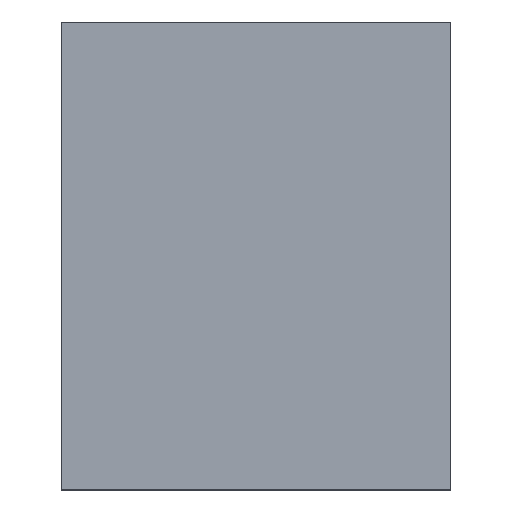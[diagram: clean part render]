
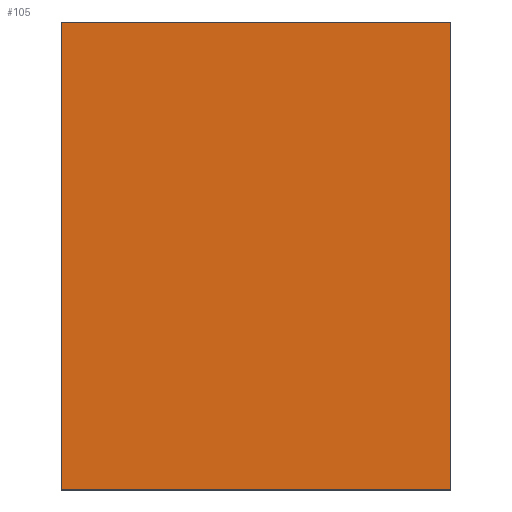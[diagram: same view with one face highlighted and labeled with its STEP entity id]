
A CAD part, top view. The second image highlights one B-rep face of the part: STEP entity #105.
In plain terms, the highlighted planar face has unit normal (0, 0, 1).
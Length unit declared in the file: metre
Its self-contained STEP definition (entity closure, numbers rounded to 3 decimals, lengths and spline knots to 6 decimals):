
#16=ORIENTED_EDGE('',*,*,#40,.T.);
#17=ORIENTED_EDGE('',*,*,#41,.T.);
#18=ORIENTED_EDGE('',*,*,#42,.T.);
#19=ORIENTED_EDGE('',*,*,#43,.T.);
#40=EDGE_CURVE('',#52,#53,#60,.T.);
#41=EDGE_CURVE('',#53,#54,#61,.T.);
#42=EDGE_CURVE('',#54,#55,#62,.T.);
#43=EDGE_CURVE('',#55,#52,#63,.T.);
#52=VERTEX_POINT('',#204);
#53=VERTEX_POINT('',#205);
#54=VERTEX_POINT('',#207);
#55=VERTEX_POINT('',#209);
#60=LINE('',#203,#72);
#61=LINE('',#206,#73);
#62=LINE('',#208,#74);
#63=LINE('',#210,#75);
#72=VECTOR('',#176,1.);
#73=VECTOR('',#177,1.);
#74=VECTOR('',#178,1.);
#75=VECTOR('',#179,1.);
#81=EDGE_LOOP('',(#16,#17,#18,#19));
#87=FACE_BOUND('',#81,.T.);
#93=PLANE('',#161);
#105=ADVANCED_FACE('',(#87),#93,.T.);
#161=AXIS2_PLACEMENT_3D('',#202,#174,#175);
#174=DIRECTION('',(0.,0.,1.));
#175=DIRECTION('',(0.,1.,0.));
#176=DIRECTION('',(0.,-1.,0.));
#177=DIRECTION('',(1.,0.,0.));
#178=DIRECTION('',(0.,1.,0.));
#179=DIRECTION('',(-1.,0.,0.));
#202=CARTESIAN_POINT('',(0.0065,0.0046,0.00085));
#203=CARTESIAN_POINT('',(0.00625,0.0043,0.00085));
#204=CARTESIAN_POINT('',(0.00625,0.0049,0.00085));
#205=CARTESIAN_POINT('',(0.00625,0.0043,0.00085));
#206=CARTESIAN_POINT('',(0.00675,0.0043,0.00085));
#207=CARTESIAN_POINT('',(0.00675,0.0043,0.00085));
#208=CARTESIAN_POINT('',(0.00675,0.0043,0.00085));
#209=CARTESIAN_POINT('',(0.00675,0.0049,0.00085));
#210=CARTESIAN_POINT('',(0.00675,0.0049,0.00085));
